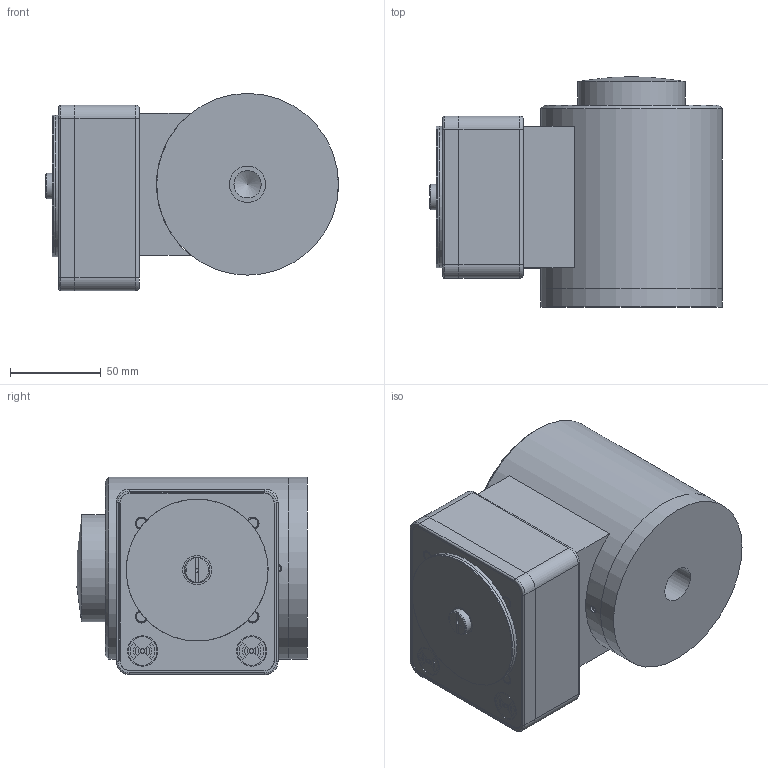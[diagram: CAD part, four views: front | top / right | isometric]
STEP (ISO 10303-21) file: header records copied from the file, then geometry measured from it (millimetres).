
FILE_DESCRIPTION(/* description */ (''),/* implementation_level */ '2;1');
FILE_NAME(/* name */ 'WNI50TC.stp',/* time_stamp */ '2025-01-02T11:38:05Z',/* author */ ('Achacko'),/* organization */ (''),/* preprocessor_version */ 'ST-DEVELOPER v20',/* originating_system */ 'Autodesk Inventor 2025',/* authorisation */ '');
FILE_SCHEMA (('AUTOMOTIVE_DESIGN { 1 0 10303 214 3 1 1 }'));
Length unit declared in the file: millimetre
Products named in the file (1): SU6014_Simplify_1
Bounding box: 161.12 x 126.68 x 108.5 mm (x, y, z)
Volume: 1390746.5 mm3; surface area: 135905.6 mm2
Topology: 1 solids, 13 shells, 420 faces, 979 edges, 611 vertices
Faces by surface type: plane 199, cylinder 153, cone 31, torus 28, bspline 8, sphere 1
Full cylindrical faces by diameter (mm): 2.1 x1, 2.5 x2, 3.242 x4, 4 x5, 4.1 x2, 4.5 x2, 5 x1, 5.54 x4, 8 x3, 8.1 x1, 10 x1, 11.5 x1, 12 x3, 14 x1, 15 x2, 15.7 x2, 16 x1, 16.7 x2, 20 x1, 40 x1, 59 x1, 70.2 x1, 78 x3, 84.4 x2, 86.4 x2, 89 x2, 90 x3, 90.5 x2, 91 x1, 100 x2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
Entity records: 13496 total; most frequent: CARTESIAN_POINT 3108, DIRECTION 2139, ORIENTED_EDGE 1962, EDGE_CURVE 981, AXIS2_PLACEMENT_3D 834, VERTEX_POINT 611, EDGE_LOOP 496, LINE 471
